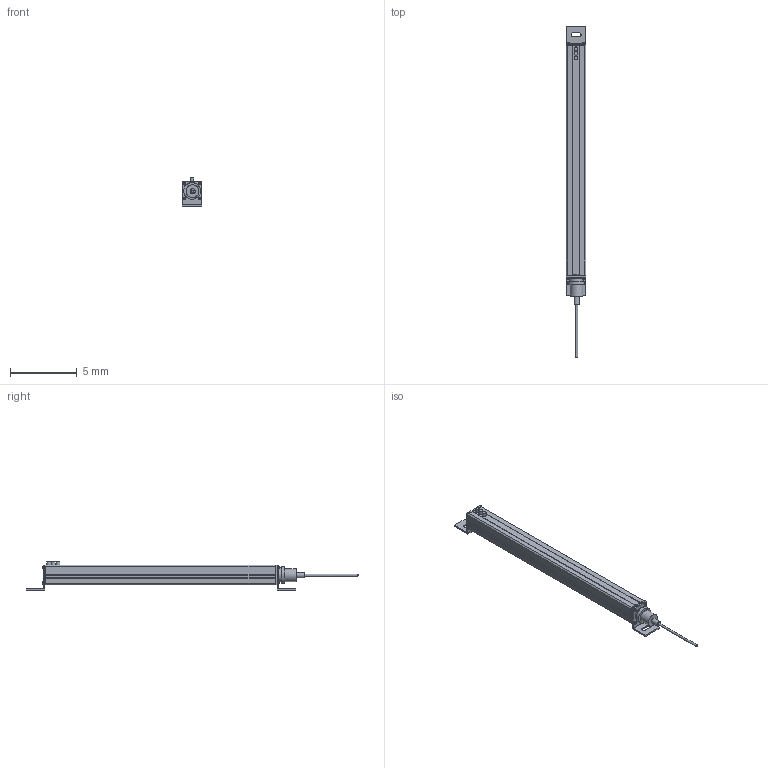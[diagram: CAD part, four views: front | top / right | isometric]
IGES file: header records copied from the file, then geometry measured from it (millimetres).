
Start section:  Autodesk DirectConnect version 7.0.27.0 ---- IGES version 5.3
Global section: file name: C:\ACADFILES\MG_PYLONS\CUSTOMER_FILES\MG-16-PYLON_3D_L.iges; native system: Autodesk DirectConnect 7.0.27.0; preprocessor: 7.0.27.0; author: ENGINEERMAIN; organization: Unknown; date: 20150810.133041; units: millimetre
Bounding box: 1.46 x 24.85 x 2.11 mm (x, y, z)
Surface area: 290.8 mm2 (no closed solid volume)
Topology: 0 solids, 0 shells, 630 faces, 3369 edges, 3383 vertices
Faces by surface type: bspline 630
